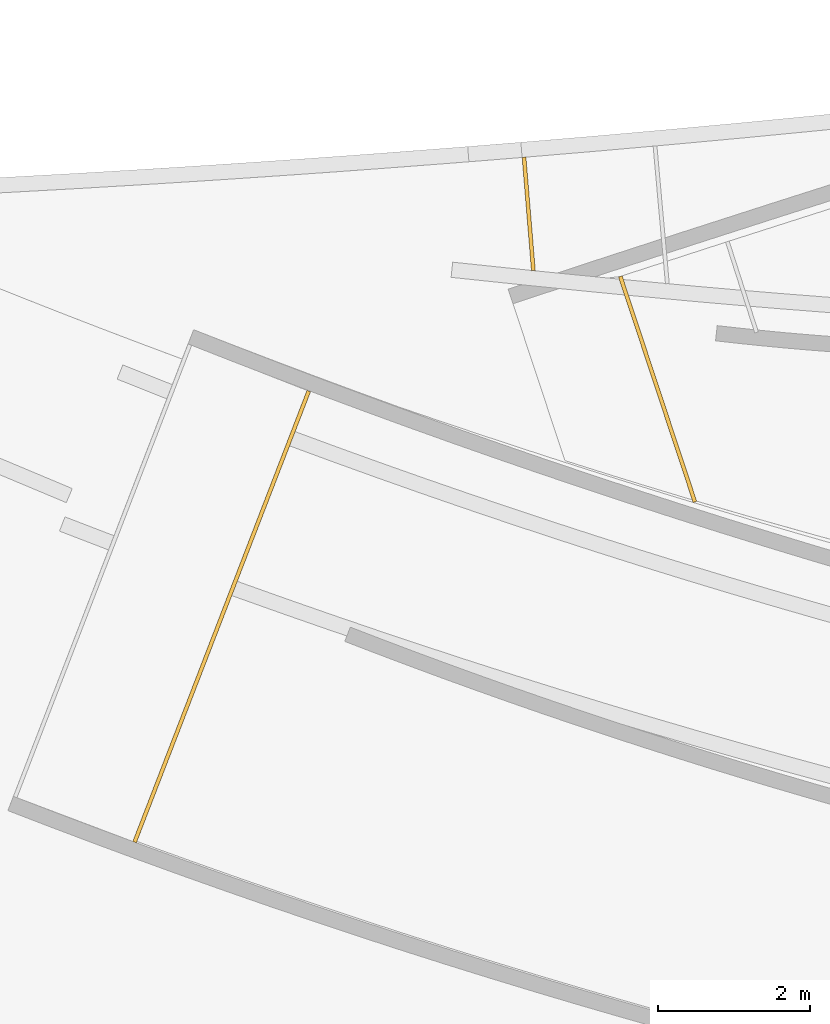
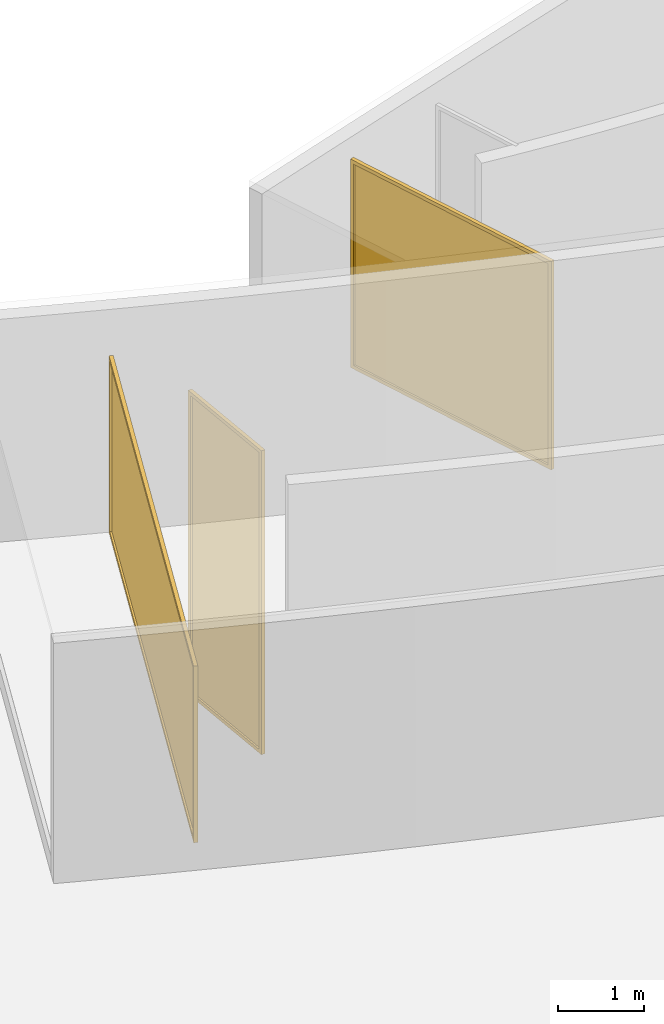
# Not in any storey, part 11 of 14: 3 curtain walls.
"""IFC2X3 model written with IfcOpenShell, lengths in millimetres."""

from ifc_helpers import new_model, entity, si_unit, converted_unit, direction, origin_with_axes, place, context, project, spatial, open_shell, faceted_brep, surface_model, source, transform, mapped, element, save


model = new_model("IFC2X3")

# Units and contexts
model_context = context("Model", 3, precision=1.0, world=origin_with_axes(), true_north=direction((0.0, 1.0)))
ifc_project = project(units=[si_unit("LENGTHUNIT", "METRE", prefix="MILLI"), converted_unit("PLANEANGLEUNIT", "DEGREE", entity("IfcRatioMeasure", 0.017453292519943), si_unit("PLANEANGLEUNIT", "RADIAN"), dimensions=[0, 0, 0, 0, 0, 0, 0])], contexts=[model_context])

# Site
site_placement = place(None, origin_with_axes())
site = spatial("IfcSite", under=ifc_project, at=site_placement, Name="Site", CompositionType="ELEMENT")

# Curtain walls
shared_shape_1 = source(origin_with_axes(), model_context, "Body", "SurfaceModel", [
    surface_model("IfcShellBasedSurfaceModel", [(-51387.8203125, -11269.3564453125, 9900.0), (-51396.828125, -11292.677734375, 9900.0), (-51420.1484375, -11283.671875, 9900.0), (-51443.46875, -11274.666015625, 9900.0), (-51434.46484375, -11251.34375, 9900.0), (-51425.4571377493, -11228.0224198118, 9899.99999999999), (-51378.8125, -11246.03515625, 9900.0), (-51387.8203125, -11269.3564453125, 12300.0), (-51378.8125, -11246.03515625, 12300.0), (-51425.45703125, -11228.0224609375, 12300.0), (-51434.46484375, -11251.34375, 12300.0), (-51443.46875, -11274.666015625, 12300.0), (-51420.1484375, -11283.671875, 12300.0), (-51396.828125, -11292.677734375, 12300.0), (-51387.8203125, -11269.3564453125, 9900.0), (-51378.8125, -11246.03515625, 9900.0), (-51378.8125, -11246.03515625, 11100.0), (-51378.8125, -11246.03515625, 12300.0), (-51387.8203125, -11269.3564453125, 12300.0), (-51396.828125, -11292.677734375, 12300.0), (-51396.828125, -11292.677734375, 11100.0), (-51396.828125, -11292.677734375, 9900.0), (-51443.46875, -11274.666015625, 12300.0), (-51443.46875, -11274.666015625, 9900.0), (-51420.1484375, -11283.671875, 9900.0), (-51396.828125, -11292.677734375, 9900.0), (-51396.828125, -11292.677734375, 11100.0), (-51396.828125, -11292.677734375, 12300.0), (-51420.1484375, -11283.671875, 12300.0), (-51425.4574572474, -11228.0222964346, 12300.0000000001), (-51425.4573507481, -11228.0223375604, 9899.99999999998), (-51443.4691760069, -11274.6658511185, 9899.99999999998), (-51443.4692825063, -11274.6658099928, 12300.0000000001), (-51425.4571377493, -11228.0224198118, 9899.99999999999), (-51425.45703125, -11228.0224609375, 12300.0), (-51378.8125, -11246.03515625, 12300.0), (-51378.8125, -11246.03515625, 11100.0), (-51378.8125, -11246.03515625, 9900.0)], [open_shell([[[0, 1, 2, 3, 4, 5, 6]], [[7, 8, 9, 10, 11, 12, 13]], [[14, 15, 16, 17, 18, 19, 20, 21]], [[22, 23, 24, 25, 26, 27, 28]], [[29, 30, 31, 32]], [[33, 34, 35, 36, 37]]])]),
    surface_model("IfcShellBasedSurfaceModel", [(-49128.3011697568, -5418.42221325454, 12300.0000000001), (-49128.3010726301, -5418.42225076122, 9899.99999999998), (-49110.2894509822, -5371.77963513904, 9899.99999999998), (-49110.2895481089, -5371.77959763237, 12300.0000000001), (-49128.30078125, -5418.42236328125, 12300.0), (-49119.296875, -5395.10107421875, 12300.0), (-49110.2890625, -5371.77978515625, 12300.0), (-49156.93359375, -5353.76708984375, 12300.0), (-49165.9375, -5377.0888671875, 12300.0), (-49174.9453125, -5400.41015625, 12300.0), (-49156.9332373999, -5353.76722745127, 11100.0), (-49156.933288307, -5353.76720779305, 9899.99999999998), (-49174.9449052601, -5400.41031350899, 9899.99999999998), (-49174.944854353, -5400.41033316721, 11100.0), (-49174.9448034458, -5400.41035282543, 12300.0000000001), (-49156.9331864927, -5353.76724710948, 12300.0000000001), (-49156.9334919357, -5353.76712916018, 9899.99999999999), (-49156.93359375, -5353.76708984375, 12300.0), (-49110.2890625, -5371.77978515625, 12300.0), (-49110.2890625, -5371.77978515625, 9900.0), (-49128.3008783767, -5418.42232577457, 9899.99999999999), (-49174.9449052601, -5400.41031350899, 9899.99999999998), (-49165.9375, -5377.0888671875, 9900.0), (-49156.9334919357, -5353.76712916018, 9899.99999999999), (-49110.2890625, -5371.77978515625, 9900.0), (-49119.296875, -5395.10107421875, 9900.0), (-49128.30078125, -5418.42236328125, 12300.0), (-49174.9453125, -5400.41015625, 12300.0), (-49174.9453125, -5400.41015625, 9900.0), (-49128.3008783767, -5418.42232577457, 9899.99999999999)], [open_shell([[[0, 1, 2, 3]], [[4, 5, 6, 7, 8, 9]], [[10, 11, 12, 13, 14, 15]], [[16, 17, 18, 19]], [[20, 21, 22, 23, 24, 25]], [[26, 27, 28, 29]]])]),
    surface_model("IfcShellBasedSurfaceModel", [(-49156.93359375, -5353.76708984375, 12300.0), (-49156.93359375, -5353.76708984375, 12350.0), (-49110.2890625, -5371.77978515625, 12350.0), (-49110.2889844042, -5371.77981531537, 12300.0000000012), (-49110.2894721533, -5371.77962695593, 12349.9999999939), (-49156.9330034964, -5353.76731778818, 12349.999999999), (-50300.19921875, -8314.216796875, 12350.0), (-51443.4686819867, -11274.6660418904, 12349.9999999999), (-51396.828125, -11292.677734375, 12350.0), (-50253.5585664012, -8332.22852618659, 12350.0000000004), (-49156.9330771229, -5353.76728935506, 12299.9999999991), (-49110.2889844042, -5371.77981531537, 12300.0000000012), (-49128.30078125, -5418.42236328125, 12300.0), (-50253.55859375, -8332.228515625, 12300.0), (-51378.8125, -11246.03515625, 12300.0), (-51396.828125, -11292.677734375, 12300.0), (-51443.4687065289, -11274.6660324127, 12299.9999999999), (-51425.45703125, -11228.0224609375, 12300.0), (-50300.19921875, -8314.216796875, 12300.0), (-49174.9454558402, -5400.41010089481, 12300.0000000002), (-50253.557977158, -8332.22899788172, 12299.9999999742), (-49110.2888282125, -5371.77987563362, 12299.9999999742), (-49110.2894721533, -5371.77962695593, 12350.0000000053), (-50253.5586210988, -8332.22874920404, 12350.0000000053), (-51396.8277700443, -11292.6778714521, 12350.0000000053), (-51396.8271261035, -11292.6781201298, 12299.9999999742), (-49156.9330034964, -5353.76731778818, 12350.0000000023), (-49156.9330771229, -5353.76728935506, 12299.9999999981), (-51443.4687065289, -11274.6660324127, 12299.9999999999), (-51443.4686819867, -11274.6660418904, 12349.9999999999), (-51396.828125, -11292.677734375, 12300.0), (-51396.828125, -11292.677734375, 12350.0), (-51443.4686819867, -11274.6660418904, 12349.9999999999), (-51443.4687065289, -11274.6660324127, 12299.9999999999)], [open_shell([[[0, 1, 2, 3]], [[4, 5, 6, 7, 8, 9]], [[10, 11, 12, 13, 14, 15, 16, 17, 18, 19]], [[20, 21, 22, 23, 24, 25]], [[26, 27, 28, 29]], [[30, 31, 32, 33]]])]),
    surface_model("IfcShellBasedSurfaceModel", [(-49156.9335670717, -5353.76702075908, 9849.99999999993), (-49156.933558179, -5353.76699773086, 9899.9999999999), (-49110.2889646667, -5371.77953181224, 9900.00000000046), (-49110.2889824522, -5371.77957786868, 9849.99999999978), (-49110.2891179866, -5371.77968432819, 9850.00000000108), (-49110.2890046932, -5371.77980748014, 9875.00000000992), (-49110.2887003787, -5371.77992500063, 9900.00000002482), (-51396.8271602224, -11292.6781069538, 9900.00000002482), (-51396.8274645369, -11292.6779894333, 9875.00000000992), (-51396.8277688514, -11292.6778719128, 9849.99999999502), (-50253.5585253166, -8332.22854205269, 9849.99999999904), (-49156.9331435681, -5353.7672636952, 9900.00000000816), (-49156.9327831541, -5353.76740288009, 9849.99999999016), (-50300.2005779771, -8314.21678208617, 9849.99999999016), (-51443.4683728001, -11274.6661612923, 9849.99999999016), (-51443.4687332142, -11274.6660221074, 9900.00000000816), (-50300.2009383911, -8314.21664290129, 9900.00000000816), (-51396.828125, -11292.677734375, 9850.0), (-51396.828125, -11292.677734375, 9900.0), (-51420.1484375, -11283.671875, 9900.0), (-51443.4687444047, -11274.6660177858, 9900.00000000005), (-51443.46875, -11274.666015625, 9850.0), (-51420.1484375, -11283.671875, 9850.0), (-49133.609375, -5362.7734375, 9900.0), (-49156.9331435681, -5353.7672636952, 9900.00000000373), (-49174.9453125, -5400.41015625, 9900.0), (-50300.19921875, -8314.216796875, 9900.0), (-51425.45703125, -11228.0224609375, 9900.0), (-51443.4687444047, -11274.6660177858, 9900.00000000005), (-51420.1484375, -11283.671875, 9900.0), (-51396.828125, -11292.677734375, 9900.0), (-51378.8125, -11246.03515625, 9900.0), (-50253.55859375, -8332.228515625, 9900.0), (-49128.3009305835, -5418.42230561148, 9900.00000000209), (-49110.2890135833, -5371.77965848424, 9899.99999999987), (-49156.9335670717, -5353.76702075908, 9849.99999999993), (-49133.609375, -5362.7734375, 9850.0), (-49110.2891179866, -5371.77968432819, 9850.00000000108), (-50253.5585253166, -8332.22854205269, 9849.99999999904), (-51396.828125, -11292.677734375, 9850.0), (-51420.1484375, -11283.671875, 9850.0), (-51443.4683728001, -11274.6661612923, 9850.00000000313), (-50300.19921875, -8314.216796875, 9850.0)], [open_shell([[[0, 1, 2, 3]], [[4, 5, 6, 7, 8, 9, 10]], [[11, 12, 13, 14, 15, 16]], [[17, 18, 19, 20, 21, 22]], [[23, 24, 25, 26, 27, 28, 29, 30, 31, 32, 33, 34]], [[35, 36, 37, 38, 39, 40, 41, 42]]])]),
])
shared_shape_2 = source(origin_with_axes(), model_context, "Body", "SurfaceModel", [
    surface_model("IfcShellBasedSurfaceModel", [(6247.0693359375, 1.36e-13, 0.0), (6247.0693359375, -1.29e-13, 2400.0), (0.0, -9e-14, 2400.0), (0.0, 1.75e-13, 0.0)], [open_shell([[[0, 1, 2, 3]]])]),
])
shared_shape_3 = source(origin_with_axes(), model_context, "Body", "MappedRepresentation", [
    mapped(shared_shape_1, transform((0.0, 0.0, 0.0), x_axis=(1.0, 0.0, 0.0), y_axis=(0.0, 1.0, 0.0), z_axis=(0.0, 0.0, 1.0), scale=1.0)),
    mapped(shared_shape_2, transform((-49151.6233799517, -5409.41628114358, 9900.0), x_axis=(-0.360250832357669, -0.932855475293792, 0.0), y_axis=(0.932855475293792, -0.360250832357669, 0.0), z_axis=(0.0, 0.0, 1.0), scale=1.0)),
])
curtain_wall_1_placement = place(site_placement, origin_with_axes())
element("IfcCurtainWall", 1, at=curtain_wall_1_placement, inside=site, context=model_context, shape_type="MappedRepresentation", body=[
    mapped(shared_shape_3, transform((0.0, 0.0, 0.0), x_axis=(1.0, 0.0, 0.0), y_axis=(0.0, 1.0, 0.0), z_axis=(0.0, 0.0, 1.0), scale=1.0)),
])
shared_shape_4 = source(origin_with_axes(), model_context, "Body", "SurfaceModel", [
    surface_model("IfcShellBasedSurfaceModel", [(3018.27905273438, 0.0, 2850.0), (0.0, 0.0, 2850.0), (0.0, 0.0, 0.0), (3018.27905273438, 0.0, 0.0)], [open_shell([[[0, 1, 2, 3]]])]),
])
shared_shape_5 = source(origin_with_axes(), model_context, "Body", "Brep", [
    faceted_brep([(-44104.203125, -6778.53466796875, 9900.0), (-44088.49609375, -6826.00341796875, 9900.0), (-44088.49609375, -6826.00341796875, 11325.0), (-44088.49609375, -6826.00341796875, 12750.0), (-44104.203125, -6778.53466796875, 12750.0), (-44104.203125, -6778.53466796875, 11325.0), (-44088.49609375, -6826.00341796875, 9900.0), (-44104.203125, -6778.53466796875, 9900.0), (-44080.46875, -6770.6806640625, 9900.0), (-44056.734375, -6762.82666015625, 9900.0), (-44041.02734375, -6810.294921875, 9900.0), (-44104.203125, -6778.53466796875, 11325.0), (-44104.203125, -6778.53466796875, 12750.0), (-44080.46875, -6770.6806640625, 12750.0), (-44056.734375, -6762.82666015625, 12750.0), (-44056.734375, -6762.82666015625, 11325.0), (-44056.734375, -6762.82666015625, 9900.0), (-44080.46875, -6770.6806640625, 9900.0), (-44104.203125, -6778.53466796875, 9900.0), (-44041.02734375, -6810.294921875, 12750.0), (-44088.49609375, -6826.00341796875, 12750.0), (-44088.49609375, -6826.00341796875, 11325.0), (-44088.49609375, -6826.00341796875, 9900.0), (-44041.02734375, -6810.294921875, 9900.0), (-44041.02734375, -6810.294921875, 11325.0), (-44104.203125, -6778.53466796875, 12750.0), (-44088.49609375, -6826.00341796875, 12750.0), (-44041.02734375, -6810.294921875, 12750.0), (-44056.734375, -6762.82666015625, 12750.0), (-44080.46875, -6770.6806640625, 12750.0), (-44041.02734375, -6810.294921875, 9900.0), (-44056.734375, -6762.82666015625, 9900.0), (-44056.734375, -6762.82666015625, 11325.0), (-44056.734375, -6762.82666015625, 12750.0), (-44041.02734375, -6810.294921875, 12750.0), (-44041.02734375, -6810.294921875, 11325.0)], [[[0, 1, 2, 3, 4, 5]], [[6, 7, 8, 9, 10]], [[11, 12, 13, 14, 15, 16, 17, 18]], [[19, 20, 21, 22, 23, 24]], [[25, 26, 27, 28, 29]], [[30, 31, 32, 33, 34, 35]]]),
])
shared_shape_6 = source(origin_with_axes(), model_context, "Body", "SurfaceModel", [
    surface_model("IfcShellBasedSurfaceModel", [(-44041.02734375, -6810.294921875, 9850.0), (-44041.0272600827, -6810.29489418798, 9900.00000000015), (-44088.49609375, -6826.00341796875, 9900.0), (-44088.4959902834, -6826.00338372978, 9849.99999999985), (-44578.3203125, -5345.8046875, 9850.0), (-45068.1446347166, -3865.60599127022, 9850.00000000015), (-45020.6758622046, -3849.89773186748, 9849.99999999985), (-44530.8514856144, -5330.09665424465, 9850.00000000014), (-44041.02734375, -6810.294921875, 9850.0), (-44088.4959902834, -6826.00338372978, 9849.99999999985), (-45068.1446347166, -3865.60599127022, 9850.00000000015), (-45068.1446134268, -3865.60598422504, 9900.00000000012), (-45020.6758891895, -3849.89774079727, 9899.99999999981), (-45020.6758622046, -3849.89773186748, 9849.99999999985), (-44041.0270522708, -6810.29482541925, 9875.00000000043), (-44041.0270117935, -6810.29481202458, 9849.99999999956), (-44530.8514856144, -5330.09665424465, 9850.00000000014), (-45020.6758622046, -3849.89773186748, 9849.99999999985), (-45020.6758891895, -3849.89774079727, 9899.99999999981), (-44041.0270927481, -6810.29483881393, 9900.00000000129), (-44088.4959902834, -6826.00338372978, 9849.99999999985), (-44088.4957514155, -6826.00330468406, 9875.00000000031), (-44088.4957194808, -6826.00329411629, 9900.00000000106), (-45068.1446134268, -3865.60598422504, 9900.00000000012), (-45068.1446347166, -3865.60599127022, 9850.00000000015), (-44578.3203125, -5345.8046875, 9850.0), (-45068.1446134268, -3865.60598422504, 9900.00000000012), (-45052.4375, -3913.07446289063, 9900.0), (-44578.3202805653, -5345.80467693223, 9899.99999999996), (-44104.203125, -6778.53466796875, 9900.0), (-44088.49609375, -6826.00341796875, 9900.0), (-44041.0272600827, -6810.29489418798, 9900.00000000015), (-44056.734375, -6762.82666015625, 9900.0), (-44530.8515260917, -5330.09666763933, 9900.00000000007), (-45004.96875, -3897.3662109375, 9900.0), (-45020.6758891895, -3849.89774079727, 9899.99999999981)], [open_shell([[[0, 1, 2, 3]], [[4, 5, 6, 7, 8, 9]], [[10, 11, 12, 13]], [[14, 15, 16, 17, 18, 19]], [[20, 21, 22, 23, 24, 25]], [[26, 27, 28, 29, 30, 31, 32, 33, 34, 35]]])]),
    surface_model("IfcShellBasedSurfaceModel", [(-45020.6758878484, -3849.89774035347, 12799.9999999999), (-45068.1446093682, -3865.60598288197, 12800.0000000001), (-44578.3202734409, -5345.80467457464, 12799.9999999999), (-44088.4957031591, -6826.00328871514, 12799.9999999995), (-44041.0272614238, -6810.29489463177, 12800.0000000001), (-44530.8515260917, -5330.09666763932, 12800.0), (-44041.0272614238, -6810.29489463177, 12800.0000000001), (-44041.0272436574, -6810.29488875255, 12750.0000000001), (-45020.675870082, -3849.89773447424, 12749.9999999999), (-45020.6758878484, -3849.89774035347, 12799.9999999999), (-44530.8515260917, -5330.09666763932, 12800.0), (-45068.1446305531, -3865.60598989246, 12750.0000000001), (-45020.675870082, -3849.89773447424, 12749.9999999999), (-45004.96875, -3897.3662109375, 12750.0), (-44530.8514994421, -5330.09665882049, 12750.0000000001), (-44056.734375, -6762.82666015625, 12750.0), (-44041.0272436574, -6810.29488875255, 12750.0000000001), (-44088.495984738, -6826.0033818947, 12749.9999999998), (-44104.203125, -6778.53466796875, 12750.0), (-44578.3203052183, -5345.80468509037, 12750.0), (-45052.4375, -3913.07446289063, 12750.0), (-44578.3202979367, -5345.80468268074, 12749.999999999), (-44088.4957667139, -6826.0033097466, 12749.999999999), (-44088.4957349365, -6826.00329923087, 12774.9999999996), (-44088.4957031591, -6826.00328871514, 12800.0000000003), (-44578.3202734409, -5345.80467457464, 12799.9999999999), (-45068.1446093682, -3865.60598288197, 12800.0000000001), (-45068.1446305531, -3865.60598989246, 12750.0000000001), (-44041.0272614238, -6810.29489463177, 12800.0000000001), (-44088.49609375, -6826.00341796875, 12800.0), (-44088.495984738, -6826.0033818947, 12749.9999999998), (-44041.0272436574, -6810.29488875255, 12750.0000000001), (-45068.1446093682, -3865.60598288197, 12800.0000000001), (-45020.6758878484, -3849.89774035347, 12799.9999999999), (-45020.675870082, -3849.89773447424, 12749.9999999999), (-45068.1446305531, -3865.60598989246, 12750.0000000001)], [open_shell([[[0, 1, 2, 3, 4, 5]], [[6, 7, 8, 9, 10]], [[11, 12, 13, 14, 15, 16, 17, 18, 19, 20]], [[21, 22, 23, 24, 25, 26, 27]], [[28, 29, 30, 31]], [[32, 33, 34, 35]]])]),
    surface_model("IfcShellBasedSurfaceModel", [(-45068.1442232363, -3865.60585511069, 9899.99999999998), (-45052.4370892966, -3913.07432699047, 9899.99999999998), (-45052.437037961, -3913.07431000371, 11325.0), (-45052.4369866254, -3913.07429301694, 12750.0000000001), (-45068.144120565, -3865.60582113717, 12750.0000000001), (-45068.1441719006, -3865.60583812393, 11325.0), (-45004.9684544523, -3897.36611314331, 9899.99999999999), (-45020.6753872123, -3849.89757469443, 9899.99999999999), (-45020.6752886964, -3849.89754209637, 12750.0000000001), (-45004.9683559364, -3897.36608054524, 12750.0000000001), (-45004.96875, -3897.3662109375, 12750.0), (-45012.8203125, -3873.63208007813, 12750.0), (-45020.67578125, -3849.89770507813, 12750.0), (-45068.14453125, -3865.60595703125, 12750.0), (-45060.2890625, -3889.34008789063, 12750.0), (-45052.4375, -3913.07446289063, 12750.0), (-45004.96875, -3897.3662109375, 12750.0), (-45052.4375, -3913.07446289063, 12750.0), (-45052.4375, -3913.07446289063, 9900.0), (-45004.9686514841, -3897.36617833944, 9900.0), (-45068.14453125, -3865.60595703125, 12750.0), (-45020.67578125, -3849.89770507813, 12750.0), (-45020.67578125, -3849.89770507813, 9900.0), (-45068.1444285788, -3865.60592305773, 9899.99999999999), (-45004.9686514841, -3897.36617833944, 9900.0), (-45052.4370892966, -3913.07432699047, 9899.99999999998), (-45060.2890625, -3889.34008789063, 9900.0), (-45068.1444285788, -3865.60592305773, 9899.99999999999), (-45020.67578125, -3849.89770507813, 9900.0), (-45012.8203125, -3873.63208007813, 9900.0)], [open_shell([[[0, 1, 2, 3, 4, 5]], [[6, 7, 8, 9]], [[10, 11, 12, 13, 14, 15]], [[16, 17, 18, 19]], [[20, 21, 22, 23]], [[24, 25, 26, 27, 28, 29]]])]),
])
shared_shape_7 = source(origin_with_axes(), model_context, "Body", "MappedRepresentation", [
    mapped(shared_shape_5, transform((0.0, 0.0, 0.0), x_axis=(1.0, 0.0, 0.0), y_axis=(0.0, 1.0, 0.0), z_axis=(0.0, 0.0, 1.0), scale=1.0)),
    mapped(shared_shape_6, transform((0.0, 0.0, 0.0), x_axis=(1.0, 0.0, 0.0), y_axis=(0.0, 1.0, 0.0), z_axis=(0.0, 0.0, 1.0), scale=1.0)),
])
shared_shape_8 = source(origin_with_axes(), model_context, "Body", "MappedRepresentation", [
    mapped(shared_shape_4, transform((-45028.7021110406, -3905.22032458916, 9899.99999999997), x_axis=(0.314163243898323, -0.94936897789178, 0.0), y_axis=(0.94936897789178, 0.314163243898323, 0.0), z_axis=(0.0, 0.0, 1.0), scale=1.0)),
    mapped(shared_shape_7, transform((0.0, 0.0, 0.0), x_axis=(1.0, 0.0, 0.0), y_axis=(0.0, 1.0, 0.0), z_axis=(0.0, 0.0, 1.0), scale=1.0)),
])
curtain_wall_2_placement = place(site_placement, origin_with_axes())
element("IfcCurtainWall", 2, at=curtain_wall_2_placement, inside=site, context=model_context, shape_type="MappedRepresentation", body=[
    mapped(shared_shape_8, transform((0.0, 0.0, 0.0), x_axis=(1.0, 0.0, 0.0), y_axis=(0.0, 1.0, 0.0), z_axis=(0.0, 0.0, 1.0), scale=1.0)),
])
shared_shape_9 = source(origin_with_axes(), model_context, "Body", "Brep", [
    faceted_brep([(-46328.82421875, -2346.15234375, 4770.0), (-46332.9296875, -2296.3212890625, 4770.0), (-46283.09765625, -2292.21557617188, 4770.0), (-46278.9921875, -2342.046875, 4770.0), (-46332.9296875, -2296.3212890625, 8970.0), (-46328.82421875, -2346.15234375, 8970.0), (-46278.9921875, -2342.046875, 8970.0), (-46283.09765625, -2292.21557617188, 8970.0), (-46332.9296875, -2296.3212890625, 4770.0), (-46328.82421875, -2346.15234375, 4770.0), (-46328.82421875, -2346.15234375, 6870.0), (-46328.82421875, -2346.15234375, 8970.0), (-46332.9296875, -2296.3212890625, 8970.0), (-46332.9296875, -2296.3212890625, 6870.0), (-46278.9921875, -2342.046875, 8970.0), (-46328.82421875, -2346.15234375, 8970.0), (-46328.82421875, -2346.15234375, 6870.0), (-46328.82421875, -2346.15234375, 4770.0), (-46278.9921875, -2342.046875, 4770.0), (-46278.9921875, -2342.046875, 6870.0), (-46332.9296875, -2296.3212890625, 8970.0), (-46283.09765625, -2292.21557617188, 8970.0), (-46283.09765625, -2292.21557617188, 6870.0), (-46283.09765625, -2292.21557617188, 4770.0), (-46332.9296875, -2296.3212890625, 4770.0), (-46332.9296875, -2296.3212890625, 6870.0), (-46278.9921875, -2342.046875, 4770.0), (-46283.09765625, -2292.21557617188, 4770.0), (-46283.09765625, -2292.21557617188, 6870.0), (-46283.09765625, -2292.21557617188, 8970.0), (-46278.9921875, -2342.046875, 8970.0), (-46278.9921875, -2342.046875, 6870.0)], [[[0, 1, 2, 3]], [[4, 5, 6, 7]], [[8, 9, 10, 11, 12, 13]], [[14, 15, 16, 17, 18, 19]], [[20, 21, 22, 23, 24, 25]], [[26, 27, 28, 29, 30, 31]]]),
    faceted_brep([(-46164.63671875, -3730.02416992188, 8970.0), (-46214.46875, -3734.12963867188, 8970.0), (-46210.3632814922, -3783.96093455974, 8970.0), (-46185.4492175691, -3781.90821745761, 8970.0), (-46160.5312503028, -3779.85522093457, 8970.0), (-46160.5312502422, -3779.85522166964, 4770.0), (-46164.63671875, -3730.02416992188, 4770.0), (-46164.63671875, -3730.02416992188, 6870.0), (-46164.63671875, -3730.02416992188, 8970.0), (-46160.5312503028, -3779.85522093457, 8970.0), (-46160.5312504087, -3779.85521964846, 6870.0), (-46185.4492175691, -3781.90821745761, 8970.0), (-46210.3632814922, -3783.96093455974, 8970.0), (-46210.363281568, -3783.96093364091, 6870.0), (-46210.3632814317, -3783.9609352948, 4770.0), (-46185.4492174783, -3781.90821856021, 4770.0), (-46160.5312502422, -3779.85522166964, 4770.0), (-46160.5312504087, -3779.85521964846, 6870.0), (-46160.5312503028, -3779.85522093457, 8970.0), (-46214.46875, -3734.12963867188, 4770.0), (-46164.63671875, -3730.02416992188, 4770.0), (-46160.5312502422, -3779.85522166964, 4770.0), (-46185.4492174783, -3781.90821856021, 4770.0), (-46210.3632814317, -3783.9609352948, 4770.0), (-46214.46875, -3734.12963867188, 4770.0), (-46210.3632814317, -3783.9609352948, 4770.0), (-46210.363281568, -3783.96093364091, 6870.0), (-46210.3632814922, -3783.96093455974, 8970.0), (-46214.46875, -3734.12963867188, 8970.0), (-46214.46875, -3734.12963867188, 6870.0), (-46214.46875, -3734.12963867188, 8970.0), (-46164.63671875, -3730.02416992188, 8970.0), (-46164.63671875, -3730.02416992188, 6870.0), (-46164.63671875, -3730.02416992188, 4770.0), (-46214.46875, -3734.12963867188, 4770.0), (-46214.46875, -3734.12963867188, 6870.0)], [[[0, 1, 2, 3, 4]], [[5, 6, 7, 8, 9, 10]], [[11, 12, 13, 14, 15, 16, 17, 18]], [[19, 20, 21, 22, 23]], [[24, 25, 26, 27, 28, 29]], [[30, 31, 32, 33, 34, 35]]]),
])
shared_shape_10 = source(origin_with_axes(), model_context, "Body", "SurfaceModel", [
    surface_model("IfcShellBasedSurfaceModel", [(-46160.5322898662, -3779.85531028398, 4719.99999998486), (-46283.0989443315, -2292.21568229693, 4719.99999998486), (-46283.0987363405, -2292.21566516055, 4744.99999999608), (-46283.0985283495, -2292.21564802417, 4770.00000000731), (-46160.5318738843, -3779.85527601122, 4770.00000000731), (-46160.5320818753, -3779.8552931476, 4744.99999999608), (-46160.5312507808, -3779.85521513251, 4745.0), (-46160.5312504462, -3779.85521919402, 4770.0), (-46185.4492176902, -3781.90821598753, 4770.0), (-46210.363344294, -3783.96093769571, 4770.00000000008), (-46210.3633653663, -3783.96094034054, 4720.00000000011), (-46185.4492175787, -3781.90821734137, 4720.0), (-46160.5312503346, -3779.85522054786, 4720.0), (-46308.0156239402, -2294.26856755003, 4720.0), (-46283.0989443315, -2292.21568229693, 4720.00000001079), (-46252.4571592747, -2664.12549882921, 4720.00000000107), (-46221.81640625, -3036.03540039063, 4720.0), (-46191.17578125, -3407.9453125, 4720.0), (-46160.5322898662, -3779.85531028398, 4720.00000000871), (-46185.4492175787, -3781.90821734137, 4720.0), (-46210.3633653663, -3783.96094034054, 4720.00000000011), (-46241.00390625, -3412.05102539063, 4720.0), (-46271.6484375, -3040.14111328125, 4720.0), (-46302.2890625, -2668.23120117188, 4720.0), (-46332.9296881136, -2296.32128161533, 4720.0), (-46332.93004816, -2296.32131877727, 4770.00000000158), (-46332.9301115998, -2296.32132400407, 4719.99999999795), (-46271.6468220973, -3040.14114110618, 4719.99999999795), (-46210.3633653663, -3783.96094034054, 4720.00000000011), (-46210.363344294, -3783.96093769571, 4770.00000000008), (-46214.4689086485, -3734.12965174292, 4770.0000000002), (-46271.6467586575, -3040.14113587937, 4770.00000000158), (-46308.0156238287, -2294.26856890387, 4770.0), (-46332.929688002, -2296.32128296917, 4770.0), (-46328.8243443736, -2346.15235410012, 4770.00000000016), (-46300.234375, -2693.14672851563, 4770.0), (-46271.6484375, -3040.14111328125, 4770.0), (-46243.05859375, -3387.13549804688, 4770.0), (-46214.4689086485, -3734.12965174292, 4770.0000000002), (-46210.363344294, -3783.96093769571, 4770.00000000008), (-46185.4492176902, -3781.90821598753, 4770.0), (-46160.5312504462, -3779.85521919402, 4770.0), (-46164.63671875, -3730.02416992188, 4770.0), (-46193.2264484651, -3383.02977576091, 4769.99999999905), (-46221.81640625, -3036.03540039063, 4770.0), (-46250.40625, -2689.04125976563, 4770.0), (-46278.9921875, -2342.046875, 4770.0), (-46283.0985283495, -2292.21564802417, 4770.00000000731), (-46283.0976565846, -2292.21557211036, 4770.0), (-46283.0976570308, -2292.21556669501, 4745.0), (-46283.0976566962, -2292.21557075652, 4720.0), (-46308.0156239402, -2294.26856755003, 4720.0), (-46332.9296881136, -2296.32128161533, 4720.0), (-46332.9296886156, -2296.32127552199, 4745.0), (-46332.929688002, -2296.32128296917, 4770.0), (-46308.0156238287, -2294.26856890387, 4770.0)], [open_shell([[[0, 1, 2, 3, 4, 5]], [[6, 7, 8, 9, 10, 11, 12]], [[13, 14, 15, 16, 17, 18, 19, 20, 21, 22, 23, 24]], [[25, 26, 27, 28, 29, 30, 31]], [[32, 33, 34, 35, 36, 37, 38, 39, 40, 41, 42, 43, 44, 45, 46, 47]], [[48, 49, 50, 51, 52, 53, 54, 55]]])]),
    surface_model("IfcShellBasedSurfaceModel", [(-46221.8152902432, -3036.03546936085, 8969.99999999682), (-46283.0986497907, -2292.21565802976, 8969.99999999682), (-46283.0987292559, -2292.2156645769, 8995.0000000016), (-46283.0988087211, -2292.21567112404, 9020.00000000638), (-46221.8154491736, -3036.03548245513, 9020.00000000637), (-46160.5320896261, -3779.85529378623, 9020.00000000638), (-46160.5320101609, -3779.85528723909, 8995.0000000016), (-46160.5319306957, -3779.85528069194, 8969.99999999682), (-46332.929688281, -2296.32127958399, 8995.0), (-46332.9296879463, -2296.32128364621, 9020.0), (-46308.0156239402, -2294.26856755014, 9020.0), (-46283.0976568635, -2292.21556872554, 9020.0), (-46283.0976573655, -2292.21556263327, 8995.0), (-46283.097656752, -2292.21557007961, 8970.0), (-46308.0156238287, -2294.26856890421, 8970.0), (-46332.9297957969, -2296.32129525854, 8969.9999999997), (-46160.531250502, -3779.85521851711, 9020.0), (-46191.17578125, -3407.9453125, 9020.0), (-46221.81640625, -3036.03540039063, 9020.0), (-46252.4570833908, -2664.12549257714, 9019.99999999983), (-46283.0976568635, -2292.21556872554, 9020.0), (-46308.0156239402, -2294.26856755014, 9020.0), (-46332.9296879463, -2296.32128364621, 9020.0), (-46302.2890625, -2668.23120117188, 9020.0), (-46271.6484375, -3040.14111328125, 9020.0), (-46241.00390625, -3412.05102539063, 9020.0), (-46210.3633858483, -3783.96094339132, 9019.99999999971), (-46185.4492175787, -3781.90821734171, 9020.0), (-46164.63671875, -3730.02416992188, 8970.0), (-46160.5312506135, -3779.85521716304, 8970.0), (-46185.4492176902, -3781.90821598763, 8970.0), (-46210.3633397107, -3783.9609386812, 8969.99999999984), (-46214.4689015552, -3734.1296511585, 8969.99999999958), (-46243.05859375, -3387.13549804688, 8970.0), (-46271.6484375, -3040.14111328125, 8970.0), (-46300.234375, -2693.14672851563, 8970.0), (-46328.8243265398, -2346.15235263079, 8969.9999999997), (-46332.9297957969, -2296.32129525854, 8969.9999999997), (-46308.0156238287, -2294.26856890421, 8970.0), (-46283.097656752, -2292.21557007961, 8970.0), (-46278.9921875, -2342.046875, 8970.0), (-46250.40625, -2689.04125976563, 8970.0), (-46221.81640625, -3036.03540039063, 8970.0), (-46193.2264854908, -3383.02977881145, 8970.00000000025), (-46210.3633858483, -3783.96094339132, 9019.99999999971), (-46210.3633397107, -3783.9609386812, 8969.99999999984), (-46185.4492176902, -3781.90821598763, 8970.0), (-46160.5312506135, -3779.85521716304, 8970.0), (-46160.5312511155, -3779.85521107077, 8995.0), (-46160.531250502, -3779.85521851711, 9020.0), (-46185.4492175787, -3781.90821734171, 9020.0), (-46332.9301503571, -2296.32132719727, 9020.00000000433), (-46332.9297957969, -2296.32129525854, 8969.9999999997), (-46328.8243265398, -2346.15235263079, 8969.9999999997), (-46214.4689015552, -3734.1296511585, 8969.99999999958), (-46210.3633397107, -3783.9609386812, 8969.99999999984), (-46210.3633858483, -3783.96094339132, 9019.99999999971)], [open_shell([[[0, 1, 2, 3, 4, 5, 6, 7]], [[8, 9, 10, 11, 12, 13, 14, 15]], [[16, 17, 18, 19, 20, 21, 22, 23, 24, 25, 26, 27]], [[28, 29, 30, 31, 32, 33, 34, 35, 36, 37, 38, 39, 40, 41, 42, 43]], [[44, 45, 46, 47, 48, 49, 50]], [[51, 52, 53, 54, 55, 56]]])]),
])
shared_shape_11 = source(origin_with_axes(), model_context, "Body", "MappedRepresentation", [
    mapped(shared_shape_9, transform((0.0, 0.0, 0.0), x_axis=(1.0, 0.0, 0.0), y_axis=(0.0, 1.0, 0.0), z_axis=(0.0, 0.0, 1.0), scale=1.0)),
    mapped(shared_shape_10, transform((0.0, 0.0, 0.0), x_axis=(1.0, 0.0, 0.0), y_axis=(0.0, 1.0, 0.0), z_axis=(0.0, 0.0, 1.0), scale=1.0)),
])
shared_shape_12 = source(origin_with_axes(), model_context, "Body", "SurfaceModel", [
    surface_model("IfcShellBasedSurfaceModel", [(1392.68029785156, 0.0, 0.0), (1392.68029785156, 0.0, 4200.0), (0.0, 0.0, 4200.0), (0.0, 0.0, 0.0)], [open_shell([[[0, 1, 2, 3]]])]),
])
shared_shape_13 = source(origin_with_axes(), model_context, "Body", "MappedRepresentation", [
    mapped(shared_shape_11, transform((0.0, 0.0, 0.0), x_axis=(1.0, 0.0, 0.0), y_axis=(0.0, 1.0, 0.0), z_axis=(0.0, 0.0, 1.0), scale=1.0)),
    mapped(shared_shape_12, transform((-46189.5533571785, -3732.07693644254, 4770.0), x_axis=(-0.08211225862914, 0.99662308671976, 0.0), y_axis=(-0.99662308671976, -0.08211225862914, 0.0), z_axis=(0.0, 0.0, 1.0), scale=0.999999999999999)),
])
curtain_wall_3_placement = place(site_placement, origin_with_axes())
element("IfcCurtainWall", 3, at=curtain_wall_3_placement, inside=site, context=model_context, shape_type="MappedRepresentation", body=[
    mapped(shared_shape_13, transform((0.0, 0.0, 0.0), x_axis=(1.0, 0.0, 0.0), y_axis=(0.0, 1.0, 0.0), z_axis=(0.0, 0.0, 1.0), scale=1.0)),
])

save(model, "model.ifc")
